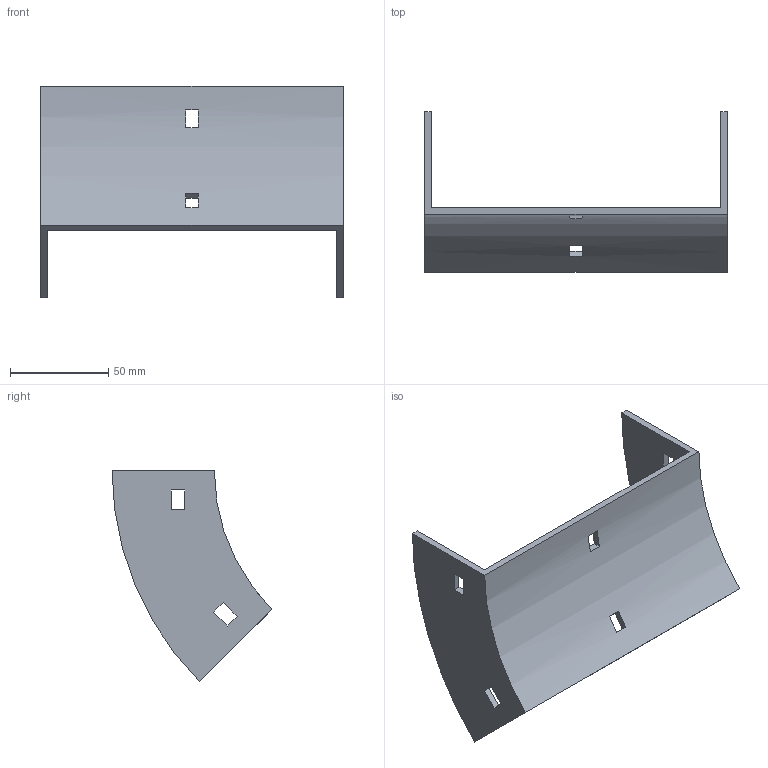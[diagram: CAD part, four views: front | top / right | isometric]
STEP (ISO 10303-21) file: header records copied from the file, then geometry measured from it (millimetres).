
FILE_DESCRIPTION (( 'STEP AP214' ), '1' );
FILE_NAME ('34B1B150.step', '2025-02-21T09:28:18', ( '' ), ( '' ), 'SwSTEP 2.0', 'SolidWorks 2023', '' );
FILE_SCHEMA (( 'AUTOMOTIVE_DESIGN' ));
Length unit declared in the file: millimetre
Products named in the file (1): 34B1B150
Bounding box: 154 x 81.29 x 107.48 mm (x, y, z)
Volume: 75742.2 mm3; surface area: 46560.4 mm2
Topology: 1 solids, 1 shells, 34 faces, 96 edges, 64 vertices
Faces by surface type: plane 30, cylinder 4
Entity records: 1143 total; most frequent: CARTESIAN_POINT 195, ORIENTED_EDGE 192, DIRECTION 182, EDGE_CURVE 96, LINE 80, VECTOR 80, VERTEX_POINT 64, AXIS2_PLACEMENT_3D 51
